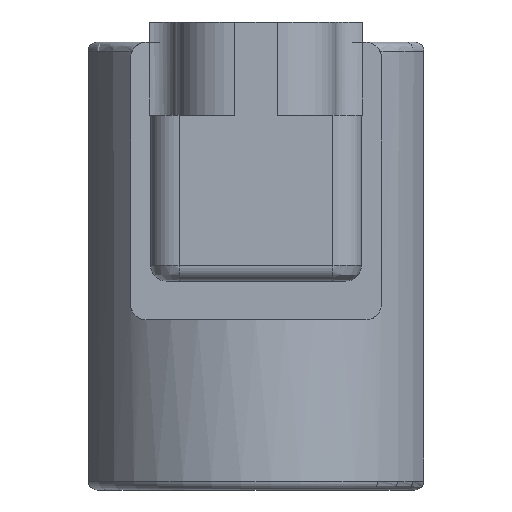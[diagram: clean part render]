
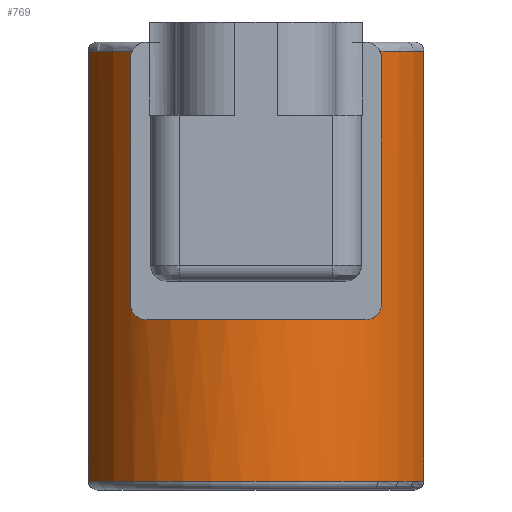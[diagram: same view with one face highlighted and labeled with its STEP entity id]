
A CAD part, left-side view. The second image highlights one B-rep face of the part: STEP entity #769.
In plain terms, the highlighted cylindrical face has radius 19.5 mm (diameter 39 mm), a partial arc.
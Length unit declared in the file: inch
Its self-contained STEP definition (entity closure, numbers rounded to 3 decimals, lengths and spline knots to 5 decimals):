
#233=CARTESIAN_POINT('',(6.54493,3.57576,-2.88976));
#234=VERTEX_POINT('',#233);
#249=CARTESIAN_POINT('',(6.54493,3.57576,-1.0));
#250=VERTEX_POINT('',#249);
#257=CARTESIAN_POINT('',(6.54493,3.57576,-1.0));
#258=DIRECTION('',(0.0,0.0,-1.0));
#259=VECTOR('',#258,1.88976);
#260=LINE('',#257,#259);
#261=EDGE_CURVE('',#250,#234,#260,.T.);
#284=CARTESIAN_POINT('',(6.21462,3.76942,-1.0));
#285=VERTEX_POINT('',#284);
#297=CARTESIAN_POINT('',(6.7558,4.31395,-1.0));
#298=DIRECTION('',(0.0,0.0,1.0));
#299=DIRECTION('',(-1.0,0.0,0.0));
#300=AXIS2_PLACEMENT_3D('',#297,#298,#299);
#301=CIRCLE('',#300,0.76772);
#302=EDGE_CURVE('',#285,#250,#301,.T.);
#417=CARTESIAN_POINT('',(6.54493,5.05214,-1.0));
#418=VERTEX_POINT('',#417);
#504=CARTESIAN_POINT('',(6.54493,5.05214,-2.88976));
#505=VERTEX_POINT('',#504);
#514=CARTESIAN_POINT('',(6.54493,5.05214,-1.0));
#515=DIRECTION('',(0.0,0.0,-1.0));
#516=VECTOR('',#515,1.88976);
#517=LINE('',#514,#516);
#518=EDGE_CURVE('',#418,#505,#517,.T.);
#627=CARTESIAN_POINT('',(6.7558,4.31395,-2.88976));
#628=DIRECTION('',(0.0,0.0,-1.0));
#629=DIRECTION('',(-1.0,0.0,0.0));
#630=AXIS2_PLACEMENT_3D('',#627,#628,#629);
#631=CIRCLE('',#630,0.76772);
#632=EDGE_CURVE('',#234,#505,#631,.T.);
#666=CARTESIAN_POINT('',(6.7558,4.31395,-0.96063));
#667=DIRECTION('',(0.0,0.0,-1.0));
#668=DIRECTION('',(-1.0,0.0,0.0));
#669=AXIS2_PLACEMENT_3D('',#666,#667,#668);
#670=CYLINDRICAL_SURFACE('',#669,0.76772);
#671=CARTESIAN_POINT('',(6.2214,3.76277,-1.02953));
#672=VERTEX_POINT('',#671);
#673=CARTESIAN_POINT('',(6.21462,3.76942,-1.));
#674=CARTESIAN_POINT('',(6.21526,3.76879,-1.00133));
#675=CARTESIAN_POINT('',(6.21586,3.7682,-1.00268));
#676=CARTESIAN_POINT('',(6.21801,3.76607,-1.00802));
#677=CARTESIAN_POINT('',(6.21927,3.76484,-1.01222));
#678=CARTESIAN_POINT('',(6.22097,3.76319,-1.0208));
#679=CARTESIAN_POINT('',(6.2214,3.76277,-1.0252));
#680=CARTESIAN_POINT('',(6.2214,3.76277,-1.02953));
#681=B_SPLINE_CURVE_WITH_KNOTS('',3,(#673,#674,#675,#676,#677,#678,#679,#680),.UNSPECIFIED.,.F.,.U.,(4,2,2,4),(-0.77574,-0.66013,-0.33006,0.0),.UNSPECIFIED.);
#682=EDGE_CURVE('',#285,#672,#681,.T.);
#683=ORIENTED_EDGE('',*,*,#682,.T.);
#684=CARTESIAN_POINT('',(6.2214,3.76277,-2.11221));
#685=VERTEX_POINT('',#684);
#686=CARTESIAN_POINT('',(6.2214,3.76277,-1.02953));
#687=DIRECTION('',(0.0,0.0,-1.0));
#688=VECTOR('',#687,1.08268);
#689=LINE('',#686,#688);
#690=EDGE_CURVE('',#672,#685,#689,.T.);
#691=ORIENTED_EDGE('',*,*,#690,.T.);
#692=CARTESIAN_POINT('',(6.15848,3.83167,-2.1811));
#693=VERTEX_POINT('',#692);
#694=CARTESIAN_POINT('',(6.2214,3.76277,-2.11221));
#695=CARTESIAN_POINT('',(6.2214,3.76277,-2.11654));
#696=CARTESIAN_POINT('',(6.22097,3.76319,-2.12093));
#697=CARTESIAN_POINT('',(6.21927,3.76484,-2.12952));
#698=CARTESIAN_POINT('',(6.21801,3.76607,-2.13371));
#699=CARTESIAN_POINT('',(6.21323,3.77079,-2.14557));
#700=CARTESIAN_POINT('',(6.20869,3.77534,-2.15254));
#701=CARTESIAN_POINT('',(6.19765,3.78675,-2.16538));
#702=CARTESIAN_POINT('',(6.18995,3.79496,-2.17133));
#703=CARTESIAN_POINT('',(6.17406,3.81284,-2.1792));
#704=CARTESIAN_POINT('',(6.16587,3.82252,-2.1811));
#705=CARTESIAN_POINT('',(6.15848,3.83167,-2.1811));
#706=B_SPLINE_CURVE_WITH_KNOTS('',3,(#694,#695,#696,#697,#698,#699,#700,#701,#702,#703,#704,#705),.UNSPECIFIED.,.F.,.U.,(4,2,2,2,2,4),(0.0,0.33006,0.66013,1.32026,2.21635,3.11244),.UNSPECIFIED.);
#707=EDGE_CURVE('',#685,#693,#706,.T.);
#708=ORIENTED_EDGE('',*,*,#707,.T.);
#709=CARTESIAN_POINT('',(6.15848,4.79624,-2.1811));
#710=VERTEX_POINT('',#709);
#711=CARTESIAN_POINT('',(6.7558,4.31395,-2.1811));
#712=DIRECTION('',(0.0,0.0,-1.0));
#713=DIRECTION('',(-1.0,0.0,0.0));
#714=AXIS2_PLACEMENT_3D('',#711,#712,#713);
#715=CIRCLE('',#714,0.76772);
#716=EDGE_CURVE('',#693,#710,#715,.T.);
#717=ORIENTED_EDGE('',*,*,#716,.T.);
#718=CARTESIAN_POINT('',(6.2214,4.86513,-2.11221));
#719=VERTEX_POINT('',#718);
#720=CARTESIAN_POINT('',(6.15848,4.79624,-2.1811));
#721=CARTESIAN_POINT('',(6.16587,4.80538,-2.1811));
#722=CARTESIAN_POINT('',(6.17406,4.81506,-2.1792));
#723=CARTESIAN_POINT('',(6.18995,4.83294,-2.17133));
#724=CARTESIAN_POINT('',(6.19765,4.84115,-2.16538));
#725=CARTESIAN_POINT('',(6.20869,4.85257,-2.15254));
#726=CARTESIAN_POINT('',(6.21323,4.85711,-2.14557));
#727=CARTESIAN_POINT('',(6.21801,4.86183,-2.13371));
#728=CARTESIAN_POINT('',(6.21927,4.86307,-2.12952));
#729=CARTESIAN_POINT('',(6.22097,4.86472,-2.12093));
#730=CARTESIAN_POINT('',(6.2214,4.86513,-2.11654));
#731=CARTESIAN_POINT('',(6.2214,4.86513,-2.11221));
#732=B_SPLINE_CURVE_WITH_KNOTS('',3,(#720,#721,#722,#723,#724,#725,#726,#727,#728,#729,#730,#731),.UNSPECIFIED.,.F.,.U.,(4,2,2,2,2,4),(-3.11244,-2.21635,-1.32026,-0.66013,-0.33006,0.0),.UNSPECIFIED.);
#733=EDGE_CURVE('',#710,#719,#732,.T.);
#734=ORIENTED_EDGE('',*,*,#733,.T.);
#735=CARTESIAN_POINT('',(6.2214,4.86513,-1.02953));
#736=VERTEX_POINT('',#735);
#737=CARTESIAN_POINT('',(6.2214,4.86513,-2.11221));
#738=DIRECTION('',(0.0,0.0,1.0));
#739=VECTOR('',#738,1.08268);
#740=LINE('',#737,#739);
#741=EDGE_CURVE('',#719,#736,#740,.T.);
#742=ORIENTED_EDGE('',*,*,#741,.T.);
#743=CARTESIAN_POINT('',(6.21462,4.85848,-1.0));
#744=VERTEX_POINT('',#743);
#745=CARTESIAN_POINT('',(6.2214,4.86513,-1.02953));
#746=CARTESIAN_POINT('',(6.2214,4.86513,-1.0252));
#747=CARTESIAN_POINT('',(6.22097,4.86472,-1.0208));
#748=CARTESIAN_POINT('',(6.21927,4.86307,-1.01222));
#749=CARTESIAN_POINT('',(6.21801,4.86183,-1.00802));
#750=CARTESIAN_POINT('',(6.21586,4.85971,-1.00268));
#751=CARTESIAN_POINT('',(6.21526,4.85911,-1.00133));
#752=CARTESIAN_POINT('',(6.21462,4.85848,-1.));
#753=B_SPLINE_CURVE_WITH_KNOTS('',3,(#745,#746,#747,#748,#749,#750,#751,#752),.UNSPECIFIED.,.F.,.U.,(4,2,2,4),(0.0,0.33006,0.66013,0.77574),.UNSPECIFIED.);
#754=EDGE_CURVE('',#736,#744,#753,.T.);
#755=ORIENTED_EDGE('',*,*,#754,.T.);
#756=CARTESIAN_POINT('',(6.7558,4.31395,-1.0));
#757=DIRECTION('',(0.0,0.0,1.0));
#758=DIRECTION('',(-1.0,0.0,0.0));
#759=AXIS2_PLACEMENT_3D('',#756,#757,#758);
#760=CIRCLE('',#759,0.76772);
#761=EDGE_CURVE('',#418,#744,#760,.T.);
#762=ORIENTED_EDGE('',*,*,#761,.F.);
#763=ORIENTED_EDGE('',*,*,#518,.T.);
#764=ORIENTED_EDGE('',*,*,#632,.F.);
#765=ORIENTED_EDGE('',*,*,#261,.F.);
#766=ORIENTED_EDGE('',*,*,#302,.F.);
#767=EDGE_LOOP('',(#683,#691,#708,#717,#734,#742,#755,#762,#763,#764,#765,#766));
#768=FACE_OUTER_BOUND('',#767,.T.);
#769=ADVANCED_FACE('',(#768),#670,.T.);
